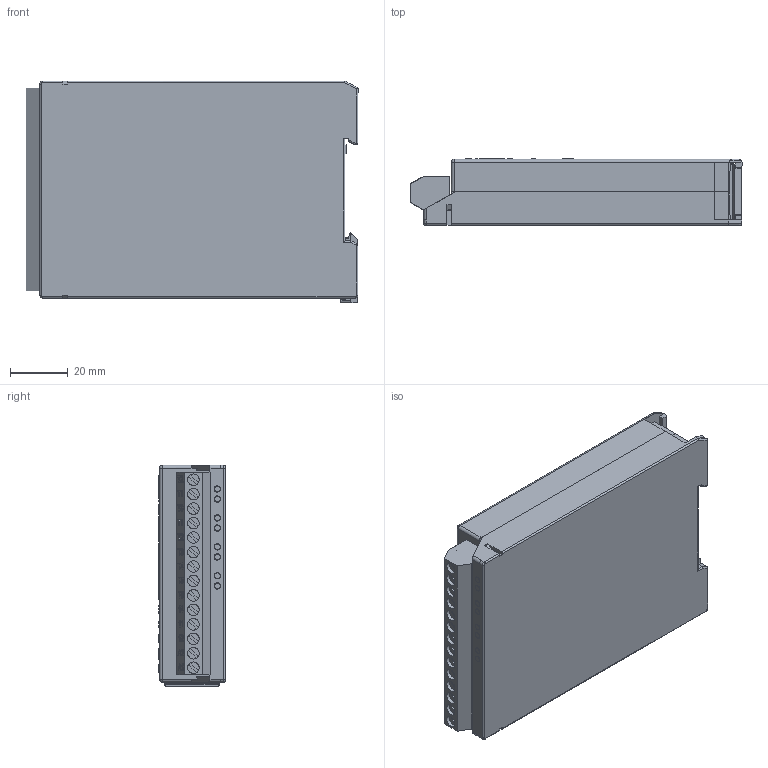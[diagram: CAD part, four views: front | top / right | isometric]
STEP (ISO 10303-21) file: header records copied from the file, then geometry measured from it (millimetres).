
FILE_DESCRIPTION (( 'STEP AP214' ), '1' );
FILE_NAME ('1147 1910_MSR220K6_3D.STEP', '2014-06-06T08:25:02', ( '' ), ( '' ), 'SwSTEP 2.0', 'SolidWorks 2014', '' );
FILE_SCHEMA (( 'AUTOMOTIVE_DESIGN' ));
Length unit declared in the file: millimetre
Products named in the file (9): pan head cross recess screw_din_ISO 7045 - M3 x 4 - Z --- 4N; K-Leiterpklatte 60 lang; 1045 1920 K-Deckel; 1147 1910 MSR220K6-UT_3D; 1147 1910_MSR220K6_3D; K-Riegel; 1147 1240 Klemmendruck_3D; 31147114; 1147 1280_MSR220K6_3D
Assembly tree (8 placements, depth 2):
  1147 1910_MSR220K6_3D
    1147 1910 MSR220K6-UT_3D
    1045 1920 K-Deckel
    K-Leiterpklatte 60 lang
    pan head cross recess screw_din_ISO 7045 - M3 x 4 - Z --- 4N
    1147 1280_MSR220K6_3D
    31147114
    1147 1240 Klemmendruck_3D
    K-Riegel
Bounding box: 114.78 x 23.04 x 76.65 mm (x, y, z)
Volume: 52619.7 mm3; surface area: 65224.4 mm2
Topology: 326 solids, 326 shells, 3615 faces, 8475 edges, 5576 vertices
Faces by surface type: plane 2827, bspline 521, cylinder 190, torus 28, cone 27, sphere 22
Full cylindrical faces by diameter (mm): 0.5 x4, 0.7 x4, 1 x14, 1.5 x7, 2.8 x2, 3 x12, 3.1 x14, 3.6 x1, 4 x14, 4.2 x1, 5.6 x1, 6 x1, 6.8 x1, 7 x1, 7.2 x1, 9 x1
Entity records: 119442 total; most frequent: CARTESIAN_POINT 34088, ORIENTED_EDGE 16594, DIRECTION 13808, EDGE_CURVE 8297, VECTOR 6738, LINE 6738, VERTEX_POINT 5541, EDGE_LOOP 4016
